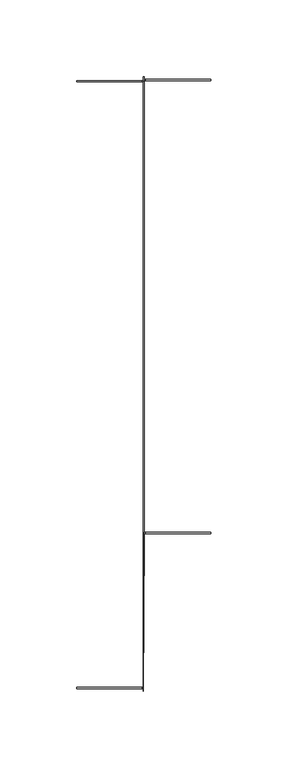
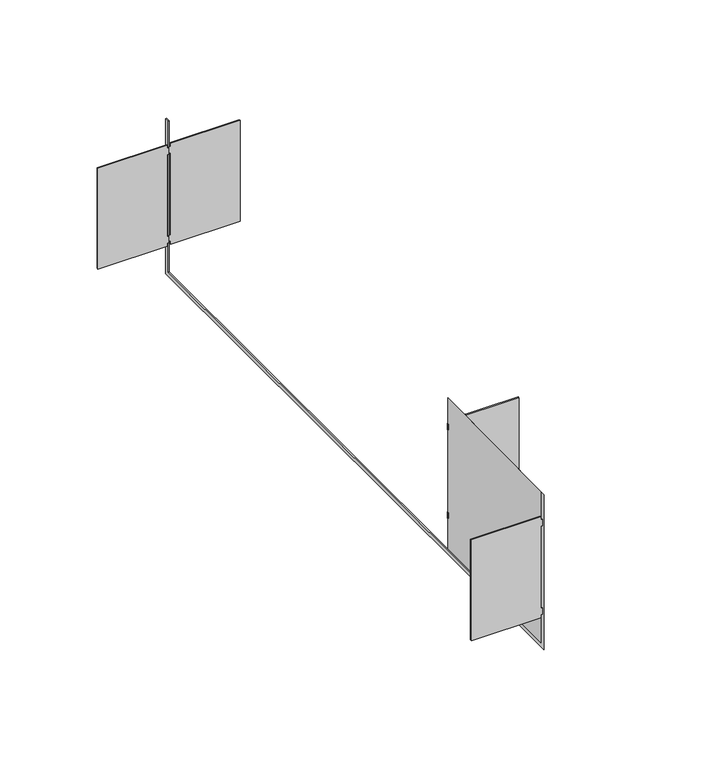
"""IFC4 building model written with IfcOpenShell, lengths in millimetres: cable carrier fitting geometry, REWT_Angle Reducer-Basorcanal : Basorcanal REWT 100x100."""

from ifc_helpers import new_model, si_unit, frame, origin, place, context, project, spatial, polyline, outline, extrude, faceted_brep, source, transform, mapped, element, save


def cable_carrier_fitting_8b7974b9(model_context):
    return source(origin(), model_context, "Body", "SolidModel", [
        extrude(outline(polyline([(35.04, 44.0), (35.04, 1.6), (33.04, 1.6), (33.04, 0.8), (29.04, 0.8), (29.04, 1.6), (2.54, 1.6), (-23.96, 1.6), (-23.96, 0.8), (-27.96, 0.8), (-27.96, 1.6), (-29.96, 1.6), (-29.96, 44.0), (35.04, 44.0)])), frame((0.0, 197.46, 0.0), z_axis=(0.0, 1.0, 0.0), x_axis=(0.0, 0.0, 1.0)), (0.0, 0.0, 1.0), 0.8),
        extrude(outline(polyline([(35.04, -43.2), (-29.96, -43.2), (-29.96, -0.8), (-27.96, -0.8), (-27.96, 0.0), (-23.96, 0.0), (-23.96, -0.8), (2.54, -0.8), (29.04, -0.8), (29.04, 0.0), (33.04, 0.0), (33.04, -0.8), (35.04, -0.8), (35.04, -43.2)])), frame((0.0, -198.26, 0.0), z_axis=(0.0, 1.0, 0.0), x_axis=(0.0, 0.0, 1.0)), (0.0, 0.0, 1.0), 0.8),
        extrude(outline(polyline([(35.04, -43.2), (-29.96, -43.2), (-29.96, -0.8), (-27.96, -0.8), (-27.96, 0.0), (-23.96, 0.0), (-23.96, -0.8), (2.54, -0.8), (29.04, -0.8), (29.04, 0.0), (33.04, 0.0), (33.04, -0.8), (35.04, -0.8), (35.04, -43.2)])), frame((0.0, 196.66, 0.0), z_axis=(0.0, 1.0, 0.0), x_axis=(0.0, 0.0, 1.0)), (0.0, 0.0, 1.0), 0.8),
        extrude(outline(polyline([(35.04, 44.0), (35.04, 1.6), (33.04, 1.6), (33.04, 0.8), (29.04, 0.8), (29.04, 1.6), (2.54, 1.6), (-23.96, 1.6), (-23.96, 0.8), (-27.96, 0.8), (-27.96, 1.6), (-29.96, 1.6), (-29.96, 44.0), (35.04, 44.0)])), frame((0.0, -97.46, 0.0), z_axis=(0.0, 1.0, 0.0), x_axis=(0.0, 0.0, 1.0)), (0.0, 0.0, 1.0), 0.8),
        faceted_brep([(0.8, -100.0, -50.0), (0.8, 200.0, -50.0), (0.8, 200.0, 50.0), (0.8, 197.46, 50.0), (0.8, 197.46, -47.46), (0.8, -97.46, -47.46), (0.8, -97.46, 50.0), (0.8, -100.0, 50.0), (0.0, -200.0, -50.0), (0.0, -200.0, 50.0), (0.0, -197.46, 50.0), (0.0, -197.46, -47.46), (0.0, 197.46, -47.46), (0.0, 197.46, 50.0), (0.0, 200.0, 50.0), (0.0, 200.0, -50.0)], [[[0, 1, 2, 3, 4, 5, 6, 7]], [[8, 9, 10, 11, 12, 13, 14, 15]], [[8, 15, 1, 0]], [[15, 14, 2, 1]], [[14, 13, 3, 2]], [[13, 12, 4, 3]], [[12, 11, 5, 4]], [[11, 10, 6, 5]], [[10, 9, 7, 6]], [[9, 8, 0, 7]]]),
    ])


if __name__ == "__main__":
    model = new_model("IFC4")
    model_context = context("Model", 3, world=origin())
    ifc_project = project(units=[si_unit("LENGTHUNIT", "METRE", prefix="MILLI")], contexts=[model_context])
    site = spatial("IfcSite", under=ifc_project)
    building = spatial("IfcBuilding", under=site)
    placement = place(None, origin())
    cable_carrier_fitting_shape = cable_carrier_fitting_8b7974b9(model_context)
    element("IfcCableCarrierFitting", 1, ObjectType="REWT_Angle Reducer-Basorcanal : Basorcanal REWT 100x100", at=placement, inside=building, context=model_context, shape_type="MappedRepresentation", body=[
        mapped(cable_carrier_fitting_shape, transform((0.0, 0.0, 0.0), x_axis=(1.0, 0.0, 0.0), y_axis=(0.0, 1.0, 0.0), z_axis=(0.0, 0.0, 1.0))),
    ])
    save(model, "model.ifc")
